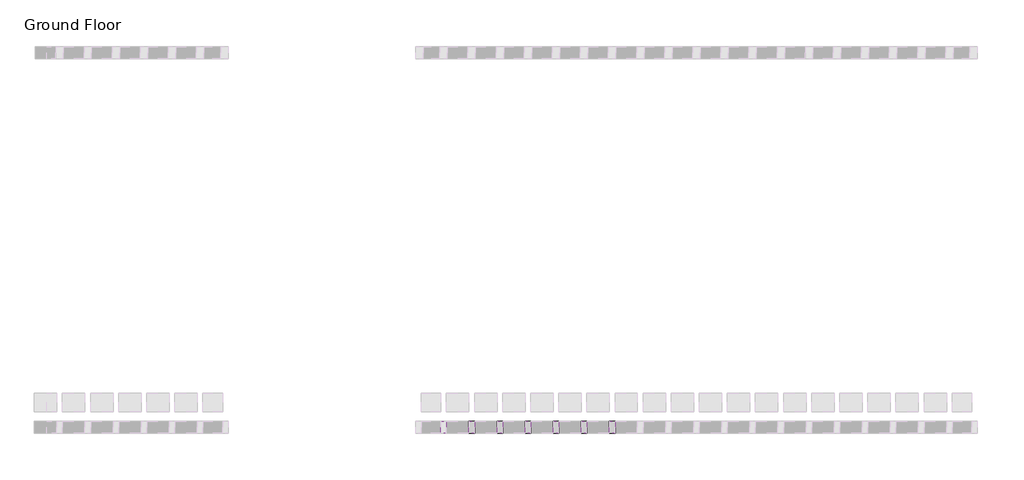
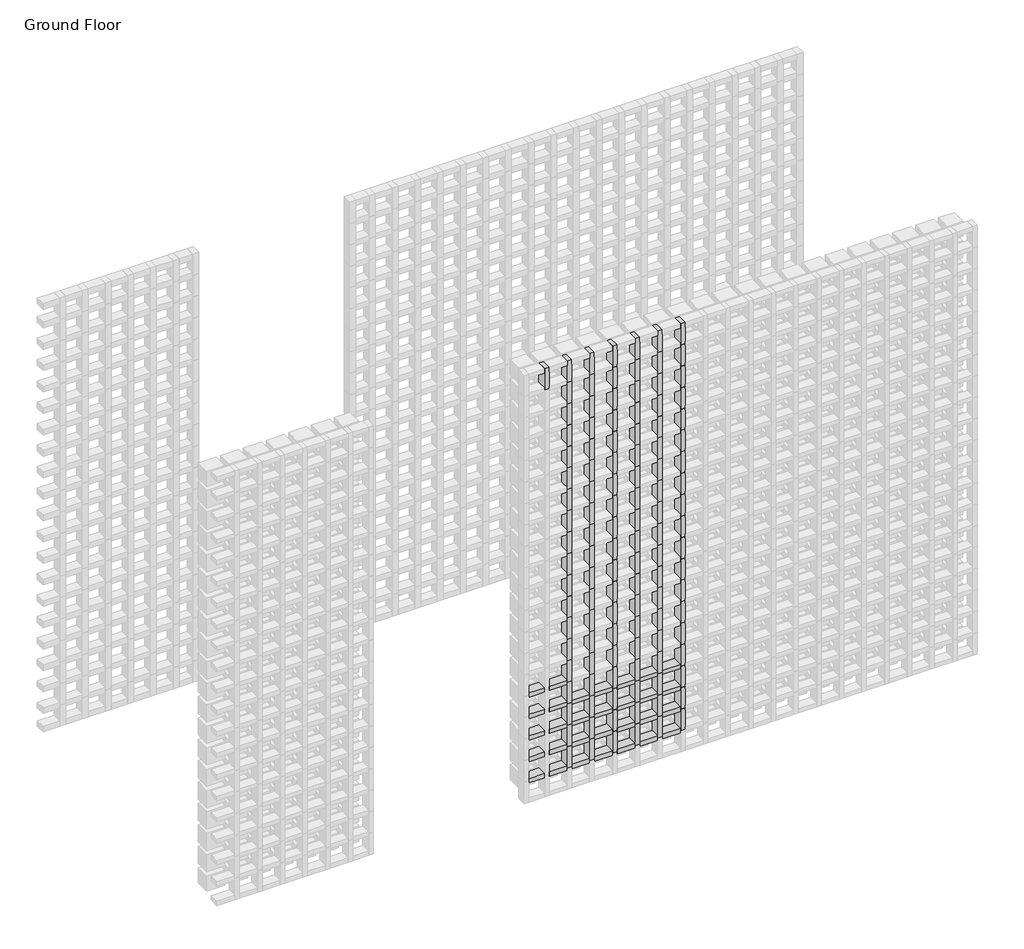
# One storey, part 75 of 350: 145 members.
"""IFC4 building model written with IfcOpenShell, lengths in millimetres."""

from ifc_helpers import new_model, si_unit, origin, place, context, project, spatial, transform, mapped, element, save
from components import rectangular_mullion_5b501421, rectangular_mullion_e9e2e2fa, rectangular_mullion_f28dea33

model = new_model("IFC4")

# Units and contexts
model_context = context("Model", 3, world=origin())
ifc_project = project(units=[si_unit("LENGTHUNIT", "METRE", prefix="MILLI")], contexts=[model_context])

# Site, building, storey
site = spatial("IfcSite", under=ifc_project)
building = spatial("IfcBuilding", under=site)
storey = spatial("IfcBuildingStorey", under=building, Name="Ground Floor", Elevation=0.0)

# Members
placement = place(None, origin())
rectangular_mullion_shape = rectangular_mullion_5b501421(model_context)
element("IfcMember", 1, ObjectType="Rectangular Mullion : Batten_Timber_Modinex_Austratus_Grid_Fascia_30x65_Ironbark", at=placement, inside=storey, context=model_context, shape_type="MappedRepresentation", body=[
    mapped(rectangular_mullion_shape, transform((14216.4361642, 38968.2978302, 150.0), x_axis=(1.0, 0.0, 0.0), y_axis=(0.0, -1.0, 0.0), z_axis=(0.0, 0.0, -1.0))),
])
element("IfcMember", 2, ObjectType="Rectangular Mullion : Batten_Timber_Modinex_Austratus_Grid_Fascia_30x65_Ironbark", at=placement, inside=storey, context=model_context, shape_type="MappedRepresentation", body=[
    mapped(rectangular_mullion_shape, transform((14216.4361642, 38968.2978302, 300.0), x_axis=(1.0, 0.0, 0.0), y_axis=(0.0, -1.0, 0.0), z_axis=(0.0, 0.0, -1.0))),
])
element("IfcMember", 3, ObjectType="Rectangular Mullion : Batten_Timber_Modinex_Austratus_Grid_Fascia_30x65_Ironbark", at=placement, inside=storey, context=model_context, shape_type="MappedRepresentation", body=[
    mapped(rectangular_mullion_shape, transform((14216.4361642, 38968.2978302, 450.0), x_axis=(1.0, 0.0, 0.0), y_axis=(0.0, -1.0, 0.0), z_axis=(0.0, 0.0, -1.0))),
])
element("IfcMember", 4, ObjectType="Rectangular Mullion : Batten_Timber_Modinex_Austratus_Grid_Fascia_30x65_Ironbark", at=placement, inside=storey, context=model_context, shape_type="MappedRepresentation", body=[
    mapped(rectangular_mullion_shape, transform((14216.4361642, 38968.2978302, 600.0), x_axis=(1.0, 0.0, 0.0), y_axis=(0.0, -1.0, 0.0), z_axis=(0.0, 0.0, -1.0))),
])
element("IfcMember", 5, ObjectType="Rectangular Mullion : Batten_Timber_Modinex_Austratus_Grid_Fascia_30x65_Ironbark", at=placement, inside=storey, context=model_context, shape_type="MappedRepresentation", body=[
    mapped(rectangular_mullion_shape, transform((14216.4361642, 38968.2978302, 750.0), x_axis=(1.0, 0.0, 0.0), y_axis=(0.0, -1.0, 0.0), z_axis=(0.0, 0.0, -1.0))),
])
element("IfcMember", 6, ObjectType="Rectangular Mullion : Batten_Timber_Modinex_Austratus_Grid_Fascia_30x65_Ironbark", at=placement, inside=storey, context=model_context, shape_type="MappedRepresentation", body=[
    mapped(rectangular_mullion_shape, transform((14216.4361642, 38968.2978302, 900.0), x_axis=(1.0, 0.0, 0.0), y_axis=(0.0, -1.0, 0.0), z_axis=(0.0, 0.0, -1.0))),
])
element("IfcMember", 7, ObjectType="Rectangular Mullion : Batten_Timber_Modinex_Austratus_Grid_Fascia_30x65_Ironbark", at=placement, inside=storey, context=model_context, shape_type="MappedRepresentation", body=[
    mapped(rectangular_mullion_shape, transform((14216.4361642, 38968.2978302, 1050.0), x_axis=(1.0, 0.0, 0.0), y_axis=(0.0, -1.0, 0.0), z_axis=(0.0, 0.0, -1.0))),
])
element("IfcMember", 8, ObjectType="Rectangular Mullion : Batten_Timber_Modinex_Austratus_Grid_Fascia_30x65_Ironbark", at=placement, inside=storey, context=model_context, shape_type="MappedRepresentation", body=[
    mapped(rectangular_mullion_shape, transform((14216.4361642, 38968.2978302, 1200.0), x_axis=(1.0, 0.0, 0.0), y_axis=(0.0, -1.0, 0.0), z_axis=(0.0, 0.0, -1.0))),
])
element("IfcMember", 9, ObjectType="Rectangular Mullion : Batten_Timber_Modinex_Austratus_Grid_Fascia_30x65_Ironbark", at=placement, inside=storey, context=model_context, shape_type="MappedRepresentation", body=[
    mapped(rectangular_mullion_shape, transform((14216.4361642, 38968.2978302, 1350.0), x_axis=(1.0, 0.0, 0.0), y_axis=(0.0, -1.0, 0.0), z_axis=(0.0, 0.0, -1.0))),
])
element("IfcMember", 10, ObjectType="Rectangular Mullion : Batten_Timber_Modinex_Austratus_Grid_Fascia_30x65_Ironbark", at=placement, inside=storey, context=model_context, shape_type="MappedRepresentation", body=[
    mapped(rectangular_mullion_shape, transform((14216.4361642, 38968.2978302, 1500.0), x_axis=(1.0, 0.0, 0.0), y_axis=(0.0, -1.0, 0.0), z_axis=(0.0, 0.0, -1.0))),
])
element("IfcMember", 11, ObjectType="Rectangular Mullion : Batten_Timber_Modinex_Austratus_Grid_Fascia_30x65_Ironbark", at=placement, inside=storey, context=model_context, shape_type="MappedRepresentation", body=[
    mapped(rectangular_mullion_shape, transform((14216.4361642, 38968.2978302, 1650.0), x_axis=(1.0, 0.0, 0.0), y_axis=(0.0, -1.0, 0.0), z_axis=(0.0, 0.0, -1.0))),
])
element("IfcMember", 12, ObjectType="Rectangular Mullion : Batten_Timber_Modinex_Austratus_Grid_Fascia_30x65_Ironbark", at=placement, inside=storey, context=model_context, shape_type="MappedRepresentation", body=[
    mapped(rectangular_mullion_shape, transform((14216.4361642, 38968.2978302, 1800.0), x_axis=(1.0, 0.0, 0.0), y_axis=(0.0, -1.0, 0.0), z_axis=(0.0, 0.0, -1.0))),
])
element("IfcMember", 13, ObjectType="Rectangular Mullion : Batten_Timber_Modinex_Austratus_Grid_Fascia_30x65_Ironbark", at=placement, inside=storey, context=model_context, shape_type="MappedRepresentation", body=[
    mapped(rectangular_mullion_shape, transform((14216.4361642, 38968.2978302, 1950.0), x_axis=(1.0, 0.0, 0.0), y_axis=(0.0, -1.0, 0.0), z_axis=(0.0, 0.0, -1.0))),
])
element("IfcMember", 14, ObjectType="Rectangular Mullion : Batten_Timber_Modinex_Austratus_Grid_Fascia_30x65_Ironbark", at=placement, inside=storey, context=model_context, shape_type="MappedRepresentation", body=[
    mapped(rectangular_mullion_shape, transform((14216.4361642, 38968.2978302, 2100.0), x_axis=(1.0, 0.0, 0.0), y_axis=(0.0, -1.0, 0.0), z_axis=(0.0, 0.0, -1.0))),
])
element("IfcMember", 15, ObjectType="Rectangular Mullion : Batten_Timber_Modinex_Austratus_Grid_Fascia_30x65_Ironbark", at=placement, inside=storey, context=model_context, shape_type="MappedRepresentation", body=[
    mapped(rectangular_mullion_shape, transform((14216.4361642, 38968.2978302, 2250.0), x_axis=(1.0, 0.0, 0.0), y_axis=(0.0, -1.0, 0.0), z_axis=(0.0, 0.0, -1.0))),
])
element("IfcMember", 16, ObjectType="Rectangular Mullion : Batten_Timber_Modinex_Austratus_Grid_Fascia_30x65_Ironbark", at=placement, inside=storey, context=model_context, shape_type="MappedRepresentation", body=[
    mapped(rectangular_mullion_shape, transform((14216.4361642, 38968.2978302, 2400.0), x_axis=(1.0, 0.0, 0.0), y_axis=(0.0, -1.0, 0.0), z_axis=(0.0, 0.0, -1.0))),
])
element("IfcMember", 17, ObjectType="Rectangular Mullion : Batten_Timber_Modinex_Austratus_Grid_Fascia_30x65_Ironbark", at=placement, inside=storey, context=model_context, shape_type="MappedRepresentation", body=[
    mapped(rectangular_mullion_shape, transform((14216.4361642, 38968.2978302, 2550.0), x_axis=(1.0, 0.0, 0.0), y_axis=(0.0, -1.0, 0.0), z_axis=(0.0, 0.0, -1.0))),
])
element("IfcMember", 18, ObjectType="Rectangular Mullion : Batten_Timber_Modinex_Austratus_Grid_Fascia_30x65_Ironbark", at=placement, inside=storey, context=model_context, shape_type="MappedRepresentation", body=[
    mapped(rectangular_mullion_shape, transform((14216.4361642, 38968.2978302, 2700.0), x_axis=(1.0, 0.0, 0.0), y_axis=(0.0, -1.0, 0.0), z_axis=(0.0, 0.0, -1.0))),
])
element("IfcMember", 19, ObjectType="Rectangular Mullion : Batten_Timber_Modinex_Austratus_Grid_Fascia_30x65_Ironbark", at=placement, inside=storey, context=model_context, shape_type="MappedRepresentation", body=[
    mapped(rectangular_mullion_shape, transform((14366.4361642, 38968.2978302, 150.0), x_axis=(1.0, 0.0, 0.0), y_axis=(0.0, -1.0, 0.0), z_axis=(0.0, 0.0, -1.0))),
])
element("IfcMember", 20, ObjectType="Rectangular Mullion : Batten_Timber_Modinex_Austratus_Grid_Fascia_30x65_Ironbark", at=placement, inside=storey, context=model_context, shape_type="MappedRepresentation", body=[
    mapped(rectangular_mullion_shape, transform((14366.4361642, 38968.2978302, 300.0), x_axis=(1.0, 0.0, 0.0), y_axis=(0.0, -1.0, 0.0), z_axis=(0.0, 0.0, -1.0))),
])
element("IfcMember", 21, ObjectType="Rectangular Mullion : Batten_Timber_Modinex_Austratus_Grid_Fascia_30x65_Ironbark", at=placement, inside=storey, context=model_context, shape_type="MappedRepresentation", body=[
    mapped(rectangular_mullion_shape, transform((14366.4361642, 38968.2978302, 450.0), x_axis=(1.0, 0.0, 0.0), y_axis=(0.0, -1.0, 0.0), z_axis=(0.0, 0.0, -1.0))),
])
element("IfcMember", 22, ObjectType="Rectangular Mullion : Batten_Timber_Modinex_Austratus_Grid_Fascia_30x65_Ironbark", at=placement, inside=storey, context=model_context, shape_type="MappedRepresentation", body=[
    mapped(rectangular_mullion_shape, transform((14366.4361642, 38968.2978302, 600.0), x_axis=(1.0, 0.0, 0.0), y_axis=(0.0, -1.0, 0.0), z_axis=(0.0, 0.0, -1.0))),
])
element("IfcMember", 23, ObjectType="Rectangular Mullion : Batten_Timber_Modinex_Austratus_Grid_Fascia_30x65_Ironbark", at=placement, inside=storey, context=model_context, shape_type="MappedRepresentation", body=[
    mapped(rectangular_mullion_shape, transform((14366.4361642, 38968.2978302, 750.0), x_axis=(1.0, 0.0, 0.0), y_axis=(0.0, -1.0, 0.0), z_axis=(0.0, 0.0, -1.0))),
])
element("IfcMember", 24, ObjectType="Rectangular Mullion : Batten_Timber_Modinex_Austratus_Grid_Fascia_30x65_Ironbark", at=placement, inside=storey, context=model_context, shape_type="MappedRepresentation", body=[
    mapped(rectangular_mullion_shape, transform((14366.4361642, 38968.2978302, 900.0), x_axis=(1.0, 0.0, 0.0), y_axis=(0.0, -1.0, 0.0), z_axis=(0.0, 0.0, -1.0))),
])
element("IfcMember", 25, ObjectType="Rectangular Mullion : Batten_Timber_Modinex_Austratus_Grid_Fascia_30x65_Ironbark", at=placement, inside=storey, context=model_context, shape_type="MappedRepresentation", body=[
    mapped(rectangular_mullion_shape, transform((14366.4361642, 38968.2978302, 1050.0), x_axis=(1.0, 0.0, 0.0), y_axis=(0.0, -1.0, 0.0), z_axis=(0.0, 0.0, -1.0))),
])
element("IfcMember", 26, ObjectType="Rectangular Mullion : Batten_Timber_Modinex_Austratus_Grid_Fascia_30x65_Ironbark", at=placement, inside=storey, context=model_context, shape_type="MappedRepresentation", body=[
    mapped(rectangular_mullion_shape, transform((14366.4361642, 38968.2978302, 1200.0), x_axis=(1.0, 0.0, 0.0), y_axis=(0.0, -1.0, 0.0), z_axis=(0.0, 0.0, -1.0))),
])
element("IfcMember", 27, ObjectType="Rectangular Mullion : Batten_Timber_Modinex_Austratus_Grid_Fascia_30x65_Ironbark", at=placement, inside=storey, context=model_context, shape_type="MappedRepresentation", body=[
    mapped(rectangular_mullion_shape, transform((14366.4361642, 38968.2978302, 1350.0), x_axis=(1.0, 0.0, 0.0), y_axis=(0.0, -1.0, 0.0), z_axis=(0.0, 0.0, -1.0))),
])
element("IfcMember", 28, ObjectType="Rectangular Mullion : Batten_Timber_Modinex_Austratus_Grid_Fascia_30x65_Ironbark", at=placement, inside=storey, context=model_context, shape_type="MappedRepresentation", body=[
    mapped(rectangular_mullion_shape, transform((14366.4361642, 38968.2978302, 1500.0), x_axis=(1.0, 0.0, 0.0), y_axis=(0.0, -1.0, 0.0), z_axis=(0.0, 0.0, -1.0))),
])
element("IfcMember", 29, ObjectType="Rectangular Mullion : Batten_Timber_Modinex_Austratus_Grid_Fascia_30x65_Ironbark", at=placement, inside=storey, context=model_context, shape_type="MappedRepresentation", body=[
    mapped(rectangular_mullion_shape, transform((14366.4361642, 38968.2978302, 1650.0), x_axis=(1.0, 0.0, 0.0), y_axis=(0.0, -1.0, 0.0), z_axis=(0.0, 0.0, -1.0))),
])
element("IfcMember", 30, ObjectType="Rectangular Mullion : Batten_Timber_Modinex_Austratus_Grid_Fascia_30x65_Ironbark", at=placement, inside=storey, context=model_context, shape_type="MappedRepresentation", body=[
    mapped(rectangular_mullion_shape, transform((14366.4361642, 38968.2978302, 1800.0), x_axis=(1.0, 0.0, 0.0), y_axis=(0.0, -1.0, 0.0), z_axis=(0.0, 0.0, -1.0))),
])
element("IfcMember", 31, ObjectType="Rectangular Mullion : Batten_Timber_Modinex_Austratus_Grid_Fascia_30x65_Ironbark", at=placement, inside=storey, context=model_context, shape_type="MappedRepresentation", body=[
    mapped(rectangular_mullion_shape, transform((14366.4361642, 38968.2978302, 1950.0), x_axis=(1.0, 0.0, 0.0), y_axis=(0.0, -1.0, 0.0), z_axis=(0.0, 0.0, -1.0))),
])
element("IfcMember", 32, ObjectType="Rectangular Mullion : Batten_Timber_Modinex_Austratus_Grid_Fascia_30x65_Ironbark", at=placement, inside=storey, context=model_context, shape_type="MappedRepresentation", body=[
    mapped(rectangular_mullion_shape, transform((14366.4361642, 38968.2978302, 2100.0), x_axis=(1.0, 0.0, 0.0), y_axis=(0.0, -1.0, 0.0), z_axis=(0.0, 0.0, -1.0))),
])
element("IfcMember", 33, ObjectType="Rectangular Mullion : Batten_Timber_Modinex_Austratus_Grid_Fascia_30x65_Ironbark", at=placement, inside=storey, context=model_context, shape_type="MappedRepresentation", body=[
    mapped(rectangular_mullion_shape, transform((14366.4361642, 38968.2978302, 2250.0), x_axis=(1.0, 0.0, 0.0), y_axis=(0.0, -1.0, 0.0), z_axis=(0.0, 0.0, -1.0))),
])
element("IfcMember", 34, ObjectType="Rectangular Mullion : Batten_Timber_Modinex_Austratus_Grid_Fascia_30x65_Ironbark", at=placement, inside=storey, context=model_context, shape_type="MappedRepresentation", body=[
    mapped(rectangular_mullion_shape, transform((14366.4361642, 38968.2978302, 2400.0), x_axis=(1.0, 0.0, 0.0), y_axis=(0.0, -1.0, 0.0), z_axis=(0.0, 0.0, -1.0))),
])
element("IfcMember", 35, ObjectType="Rectangular Mullion : Batten_Timber_Modinex_Austratus_Grid_Fascia_30x65_Ironbark", at=placement, inside=storey, context=model_context, shape_type="MappedRepresentation", body=[
    mapped(rectangular_mullion_shape, transform((14366.4361642, 38968.2978302, 2550.0), x_axis=(1.0, 0.0, 0.0), y_axis=(0.0, -1.0, 0.0), z_axis=(0.0, 0.0, -1.0))),
])
element("IfcMember", 36, ObjectType="Rectangular Mullion : Batten_Timber_Modinex_Austratus_Grid_Fascia_30x65_Ironbark", at=placement, inside=storey, context=model_context, shape_type="MappedRepresentation", body=[
    mapped(rectangular_mullion_shape, transform((14366.4361642, 38968.2978302, 2700.0), x_axis=(1.0, 0.0, 0.0), y_axis=(0.0, -1.0, 0.0), z_axis=(0.0, 0.0, -1.0))),
])
element("IfcMember", 37, ObjectType="Rectangular Mullion : Batten_Timber_Modinex_Austratus_Grid_Fascia_30x65_Ironbark", at=placement, inside=storey, context=model_context, shape_type="MappedRepresentation", body=[
    mapped(rectangular_mullion_shape, transform((14516.4361642, 38968.2978302, 150.0), x_axis=(1.0, 0.0, 0.0), y_axis=(0.0, -1.0, 0.0), z_axis=(0.0, 0.0, -1.0))),
])
element("IfcMember", 38, ObjectType="Rectangular Mullion : Batten_Timber_Modinex_Austratus_Grid_Fascia_30x65_Ironbark", at=placement, inside=storey, context=model_context, shape_type="MappedRepresentation", body=[
    mapped(rectangular_mullion_shape, transform((14516.4361642, 38968.2978302, 300.0), x_axis=(1.0, 0.0, 0.0), y_axis=(0.0, -1.0, 0.0), z_axis=(0.0, 0.0, -1.0))),
])
element("IfcMember", 39, ObjectType="Rectangular Mullion : Batten_Timber_Modinex_Austratus_Grid_Fascia_30x65_Ironbark", at=placement, inside=storey, context=model_context, shape_type="MappedRepresentation", body=[
    mapped(rectangular_mullion_shape, transform((14516.4361642, 38968.2978302, 450.0), x_axis=(1.0, 0.0, 0.0), y_axis=(0.0, -1.0, 0.0), z_axis=(0.0, 0.0, -1.0))),
])
element("IfcMember", 40, ObjectType="Rectangular Mullion : Batten_Timber_Modinex_Austratus_Grid_Fascia_30x65_Ironbark", at=placement, inside=storey, context=model_context, shape_type="MappedRepresentation", body=[
    mapped(rectangular_mullion_shape, transform((14516.4361642, 38968.2978302, 600.0), x_axis=(1.0, 0.0, 0.0), y_axis=(0.0, -1.0, 0.0), z_axis=(0.0, 0.0, -1.0))),
])
element("IfcMember", 41, ObjectType="Rectangular Mullion : Batten_Timber_Modinex_Austratus_Grid_Fascia_30x65_Ironbark", at=placement, inside=storey, context=model_context, shape_type="MappedRepresentation", body=[
    mapped(rectangular_mullion_shape, transform((14516.4361642, 38968.2978302, 750.0), x_axis=(1.0, 0.0, 0.0), y_axis=(0.0, -1.0, 0.0), z_axis=(0.0, 0.0, -1.0))),
])
element("IfcMember", 42, ObjectType="Rectangular Mullion : Batten_Timber_Modinex_Austratus_Grid_Fascia_30x65_Ironbark", at=placement, inside=storey, context=model_context, shape_type="MappedRepresentation", body=[
    mapped(rectangular_mullion_shape, transform((14516.4361642, 38968.2978302, 900.0), x_axis=(1.0, 0.0, 0.0), y_axis=(0.0, -1.0, 0.0), z_axis=(0.0, 0.0, -1.0))),
])
element("IfcMember", 43, ObjectType="Rectangular Mullion : Batten_Timber_Modinex_Austratus_Grid_Fascia_30x65_Ironbark", at=placement, inside=storey, context=model_context, shape_type="MappedRepresentation", body=[
    mapped(rectangular_mullion_shape, transform((14516.4361642, 38968.2978302, 1050.0), x_axis=(1.0, 0.0, 0.0), y_axis=(0.0, -1.0, 0.0), z_axis=(0.0, 0.0, -1.0))),
])
element("IfcMember", 44, ObjectType="Rectangular Mullion : Batten_Timber_Modinex_Austratus_Grid_Fascia_30x65_Ironbark", at=placement, inside=storey, context=model_context, shape_type="MappedRepresentation", body=[
    mapped(rectangular_mullion_shape, transform((14516.4361642, 38968.2978302, 1200.0), x_axis=(1.0, 0.0, 0.0), y_axis=(0.0, -1.0, 0.0), z_axis=(0.0, 0.0, -1.0))),
])
element("IfcMember", 45, ObjectType="Rectangular Mullion : Batten_Timber_Modinex_Austratus_Grid_Fascia_30x65_Ironbark", at=placement, inside=storey, context=model_context, shape_type="MappedRepresentation", body=[
    mapped(rectangular_mullion_shape, transform((14516.4361642, 38968.2978302, 1350.0), x_axis=(1.0, 0.0, 0.0), y_axis=(0.0, -1.0, 0.0), z_axis=(0.0, 0.0, -1.0))),
])
element("IfcMember", 46, ObjectType="Rectangular Mullion : Batten_Timber_Modinex_Austratus_Grid_Fascia_30x65_Ironbark", at=placement, inside=storey, context=model_context, shape_type="MappedRepresentation", body=[
    mapped(rectangular_mullion_shape, transform((14516.4361642, 38968.2978302, 1500.0), x_axis=(1.0, 0.0, 0.0), y_axis=(0.0, -1.0, 0.0), z_axis=(0.0, 0.0, -1.0))),
])
element("IfcMember", 47, ObjectType="Rectangular Mullion : Batten_Timber_Modinex_Austratus_Grid_Fascia_30x65_Ironbark", at=placement, inside=storey, context=model_context, shape_type="MappedRepresentation", body=[
    mapped(rectangular_mullion_shape, transform((14516.4361642, 38968.2978302, 1650.0), x_axis=(1.0, 0.0, 0.0), y_axis=(0.0, -1.0, 0.0), z_axis=(0.0, 0.0, -1.0))),
])
element("IfcMember", 48, ObjectType="Rectangular Mullion : Batten_Timber_Modinex_Austratus_Grid_Fascia_30x65_Ironbark", at=placement, inside=storey, context=model_context, shape_type="MappedRepresentation", body=[
    mapped(rectangular_mullion_shape, transform((14516.4361642, 38968.2978302, 1800.0), x_axis=(1.0, 0.0, 0.0), y_axis=(0.0, -1.0, 0.0), z_axis=(0.0, 0.0, -1.0))),
])
element("IfcMember", 49, ObjectType="Rectangular Mullion : Batten_Timber_Modinex_Austratus_Grid_Fascia_30x65_Ironbark", at=placement, inside=storey, context=model_context, shape_type="MappedRepresentation", body=[
    mapped(rectangular_mullion_shape, transform((14516.4361642, 38968.2978302, 1950.0), x_axis=(1.0, 0.0, 0.0), y_axis=(0.0, -1.0, 0.0), z_axis=(0.0, 0.0, -1.0))),
])
element("IfcMember", 50, ObjectType="Rectangular Mullion : Batten_Timber_Modinex_Austratus_Grid_Fascia_30x65_Ironbark", at=placement, inside=storey, context=model_context, shape_type="MappedRepresentation", body=[
    mapped(rectangular_mullion_shape, transform((14516.4361642, 38968.2978302, 2100.0), x_axis=(1.0, 0.0, 0.0), y_axis=(0.0, -1.0, 0.0), z_axis=(0.0, 0.0, -1.0))),
])
element("IfcMember", 51, ObjectType="Rectangular Mullion : Batten_Timber_Modinex_Austratus_Grid_Fascia_30x65_Ironbark", at=placement, inside=storey, context=model_context, shape_type="MappedRepresentation", body=[
    mapped(rectangular_mullion_shape, transform((14516.4361642, 38968.2978302, 2250.0), x_axis=(1.0, 0.0, 0.0), y_axis=(0.0, -1.0, 0.0), z_axis=(0.0, 0.0, -1.0))),
])
element("IfcMember", 52, ObjectType="Rectangular Mullion : Batten_Timber_Modinex_Austratus_Grid_Fascia_30x65_Ironbark", at=placement, inside=storey, context=model_context, shape_type="MappedRepresentation", body=[
    mapped(rectangular_mullion_shape, transform((14516.4361642, 38968.2978302, 2400.0), x_axis=(1.0, 0.0, 0.0), y_axis=(0.0, -1.0, 0.0), z_axis=(0.0, 0.0, -1.0))),
])
element("IfcMember", 53, ObjectType="Rectangular Mullion : Batten_Timber_Modinex_Austratus_Grid_Fascia_30x65_Ironbark", at=placement, inside=storey, context=model_context, shape_type="MappedRepresentation", body=[
    mapped(rectangular_mullion_shape, transform((14516.4361642, 38968.2978302, 2550.0), x_axis=(1.0, 0.0, 0.0), y_axis=(0.0, -1.0, 0.0), z_axis=(0.0, 0.0, -1.0))),
])
element("IfcMember", 54, ObjectType="Rectangular Mullion : Batten_Timber_Modinex_Austratus_Grid_Fascia_30x65_Ironbark", at=placement, inside=storey, context=model_context, shape_type="MappedRepresentation", body=[
    mapped(rectangular_mullion_shape, transform((14516.4361642, 38968.2978302, 2700.0), x_axis=(1.0, 0.0, 0.0), y_axis=(0.0, -1.0, 0.0), z_axis=(0.0, 0.0, -1.0))),
])
element("IfcMember", 55, ObjectType="Rectangular Mullion : Batten_Timber_Modinex_Austratus_Grid_Fascia_30x65_Ironbark", at=placement, inside=storey, context=model_context, shape_type="MappedRepresentation", body=[
    mapped(rectangular_mullion_shape, transform((14666.4361642, 38968.2978302, 150.0), x_axis=(1.0, 0.0, 0.0), y_axis=(0.0, -1.0, 0.0), z_axis=(0.0, 0.0, -1.0))),
])
element("IfcMember", 56, ObjectType="Rectangular Mullion : Batten_Timber_Modinex_Austratus_Grid_Fascia_30x65_Ironbark", at=placement, inside=storey, context=model_context, shape_type="MappedRepresentation", body=[
    mapped(rectangular_mullion_shape, transform((14666.4361642, 38968.2978302, 300.0), x_axis=(1.0, 0.0, 0.0), y_axis=(0.0, -1.0, 0.0), z_axis=(0.0, 0.0, -1.0))),
])
element("IfcMember", 57, ObjectType="Rectangular Mullion : Batten_Timber_Modinex_Austratus_Grid_Fascia_30x65_Ironbark", at=placement, inside=storey, context=model_context, shape_type="MappedRepresentation", body=[
    mapped(rectangular_mullion_shape, transform((14666.4361642, 38968.2978302, 450.0), x_axis=(1.0, 0.0, 0.0), y_axis=(0.0, -1.0, 0.0), z_axis=(0.0, 0.0, -1.0))),
])
element("IfcMember", 58, ObjectType="Rectangular Mullion : Batten_Timber_Modinex_Austratus_Grid_Fascia_30x65_Ironbark", at=placement, inside=storey, context=model_context, shape_type="MappedRepresentation", body=[
    mapped(rectangular_mullion_shape, transform((14666.4361642, 38968.2978302, 600.0), x_axis=(1.0, 0.0, 0.0), y_axis=(0.0, -1.0, 0.0), z_axis=(0.0, 0.0, -1.0))),
])
element("IfcMember", 59, ObjectType="Rectangular Mullion : Batten_Timber_Modinex_Austratus_Grid_Fascia_30x65_Ironbark", at=placement, inside=storey, context=model_context, shape_type="MappedRepresentation", body=[
    mapped(rectangular_mullion_shape, transform((14666.4361642, 38968.2978302, 750.0), x_axis=(1.0, 0.0, 0.0), y_axis=(0.0, -1.0, 0.0), z_axis=(0.0, 0.0, -1.0))),
])
element("IfcMember", 60, ObjectType="Rectangular Mullion : Batten_Timber_Modinex_Austratus_Grid_Fascia_30x65_Ironbark", at=placement, inside=storey, context=model_context, shape_type="MappedRepresentation", body=[
    mapped(rectangular_mullion_shape, transform((14666.4361642, 38968.2978302, 900.0), x_axis=(1.0, 0.0, 0.0), y_axis=(0.0, -1.0, 0.0), z_axis=(0.0, 0.0, -1.0))),
])
element("IfcMember", 61, ObjectType="Rectangular Mullion : Batten_Timber_Modinex_Austratus_Grid_Fascia_30x65_Ironbark", at=placement, inside=storey, context=model_context, shape_type="MappedRepresentation", body=[
    mapped(rectangular_mullion_shape, transform((14666.4361642, 38968.2978302, 1050.0), x_axis=(1.0, 0.0, 0.0), y_axis=(0.0, -1.0, 0.0), z_axis=(0.0, 0.0, -1.0))),
])
element("IfcMember", 62, ObjectType="Rectangular Mullion : Batten_Timber_Modinex_Austratus_Grid_Fascia_30x65_Ironbark", at=placement, inside=storey, context=model_context, shape_type="MappedRepresentation", body=[
    mapped(rectangular_mullion_shape, transform((14666.4361642, 38968.2978302, 1200.0), x_axis=(1.0, 0.0, 0.0), y_axis=(0.0, -1.0, 0.0), z_axis=(0.0, 0.0, -1.0))),
])
element("IfcMember", 63, ObjectType="Rectangular Mullion : Batten_Timber_Modinex_Austratus_Grid_Fascia_30x65_Ironbark", at=placement, inside=storey, context=model_context, shape_type="MappedRepresentation", body=[
    mapped(rectangular_mullion_shape, transform((14666.4361642, 38968.2978302, 1350.0), x_axis=(1.0, 0.0, 0.0), y_axis=(0.0, -1.0, 0.0), z_axis=(0.0, 0.0, -1.0))),
])
element("IfcMember", 64, ObjectType="Rectangular Mullion : Batten_Timber_Modinex_Austratus_Grid_Fascia_30x65_Ironbark", at=placement, inside=storey, context=model_context, shape_type="MappedRepresentation", body=[
    mapped(rectangular_mullion_shape, transform((14666.4361642, 38968.2978302, 1500.0), x_axis=(1.0, 0.0, 0.0), y_axis=(0.0, -1.0, 0.0), z_axis=(0.0, 0.0, -1.0))),
])
element("IfcMember", 65, ObjectType="Rectangular Mullion : Batten_Timber_Modinex_Austratus_Grid_Fascia_30x65_Ironbark", at=placement, inside=storey, context=model_context, shape_type="MappedRepresentation", body=[
    mapped(rectangular_mullion_shape, transform((14666.4361642, 38968.2978302, 1650.0), x_axis=(1.0, 0.0, 0.0), y_axis=(0.0, -1.0, 0.0), z_axis=(0.0, 0.0, -1.0))),
])
element("IfcMember", 66, ObjectType="Rectangular Mullion : Batten_Timber_Modinex_Austratus_Grid_Fascia_30x65_Ironbark", at=placement, inside=storey, context=model_context, shape_type="MappedRepresentation", body=[
    mapped(rectangular_mullion_shape, transform((14666.4361642, 38968.2978302, 1800.0), x_axis=(1.0, 0.0, 0.0), y_axis=(0.0, -1.0, 0.0), z_axis=(0.0, 0.0, -1.0))),
])
element("IfcMember", 67, ObjectType="Rectangular Mullion : Batten_Timber_Modinex_Austratus_Grid_Fascia_30x65_Ironbark", at=placement, inside=storey, context=model_context, shape_type="MappedRepresentation", body=[
    mapped(rectangular_mullion_shape, transform((14666.4361642, 38968.2978302, 1950.0), x_axis=(1.0, 0.0, 0.0), y_axis=(0.0, -1.0, 0.0), z_axis=(0.0, 0.0, -1.0))),
])
element("IfcMember", 68, ObjectType="Rectangular Mullion : Batten_Timber_Modinex_Austratus_Grid_Fascia_30x65_Ironbark", at=placement, inside=storey, context=model_context, shape_type="MappedRepresentation", body=[
    mapped(rectangular_mullion_shape, transform((14666.4361642, 38968.2978302, 2100.0), x_axis=(1.0, 0.0, 0.0), y_axis=(0.0, -1.0, 0.0), z_axis=(0.0, 0.0, -1.0))),
])
element("IfcMember", 69, ObjectType="Rectangular Mullion : Batten_Timber_Modinex_Austratus_Grid_Fascia_30x65_Ironbark", at=placement, inside=storey, context=model_context, shape_type="MappedRepresentation", body=[
    mapped(rectangular_mullion_shape, transform((14666.4361642, 38968.2978302, 2250.0), x_axis=(1.0, 0.0, 0.0), y_axis=(0.0, -1.0, 0.0), z_axis=(0.0, 0.0, -1.0))),
])
element("IfcMember", 70, ObjectType="Rectangular Mullion : Batten_Timber_Modinex_Austratus_Grid_Fascia_30x65_Ironbark", at=placement, inside=storey, context=model_context, shape_type="MappedRepresentation", body=[
    mapped(rectangular_mullion_shape, transform((14666.4361642, 38968.2978302, 2400.0), x_axis=(1.0, 0.0, 0.0), y_axis=(0.0, -1.0, 0.0), z_axis=(0.0, 0.0, -1.0))),
])
element("IfcMember", 71, ObjectType="Rectangular Mullion : Batten_Timber_Modinex_Austratus_Grid_Fascia_30x65_Ironbark", at=placement, inside=storey, context=model_context, shape_type="MappedRepresentation", body=[
    mapped(rectangular_mullion_shape, transform((14666.4361642, 38968.2978302, 2550.0), x_axis=(1.0, 0.0, 0.0), y_axis=(0.0, -1.0, 0.0), z_axis=(0.0, 0.0, -1.0))),
])
element("IfcMember", 72, ObjectType="Rectangular Mullion : Batten_Timber_Modinex_Austratus_Grid_Fascia_30x65_Ironbark", at=placement, inside=storey, context=model_context, shape_type="MappedRepresentation", body=[
    mapped(rectangular_mullion_shape, transform((14666.4361642, 38968.2978302, 2700.0), x_axis=(1.0, 0.0, 0.0), y_axis=(0.0, -1.0, 0.0), z_axis=(0.0, 0.0, -1.0))),
])
element("IfcMember", 73, ObjectType="Rectangular Mullion : Batten_Timber_Modinex_Austratus_Grid_Fascia_30x65_Ironbark", at=placement, inside=storey, context=model_context, shape_type="MappedRepresentation", body=[
    mapped(rectangular_mullion_shape, transform((14816.4361642, 38968.2978302, 150.0), x_axis=(1.0, 0.0, 0.0), y_axis=(0.0, -1.0, 0.0), z_axis=(0.0, 0.0, -1.0))),
])
element("IfcMember", 74, ObjectType="Rectangular Mullion : Batten_Timber_Modinex_Austratus_Grid_Fascia_30x65_Ironbark", at=placement, inside=storey, context=model_context, shape_type="MappedRepresentation", body=[
    mapped(rectangular_mullion_shape, transform((14816.4361642, 38968.2978302, 300.0), x_axis=(1.0, 0.0, 0.0), y_axis=(0.0, -1.0, 0.0), z_axis=(0.0, 0.0, -1.0))),
])
element("IfcMember", 75, ObjectType="Rectangular Mullion : Batten_Timber_Modinex_Austratus_Grid_Fascia_30x65_Ironbark", at=placement, inside=storey, context=model_context, shape_type="MappedRepresentation", body=[
    mapped(rectangular_mullion_shape, transform((14816.4361642, 38968.2978302, 450.0), x_axis=(1.0, 0.0, 0.0), y_axis=(0.0, -1.0, 0.0), z_axis=(0.0, 0.0, -1.0))),
])
element("IfcMember", 76, ObjectType="Rectangular Mullion : Batten_Timber_Modinex_Austratus_Grid_Fascia_30x65_Ironbark", at=placement, inside=storey, context=model_context, shape_type="MappedRepresentation", body=[
    mapped(rectangular_mullion_shape, transform((14816.4361642, 38968.2978302, 600.0), x_axis=(1.0, 0.0, 0.0), y_axis=(0.0, -1.0, 0.0), z_axis=(0.0, 0.0, -1.0))),
])
element("IfcMember", 77, ObjectType="Rectangular Mullion : Batten_Timber_Modinex_Austratus_Grid_Fascia_30x65_Ironbark", at=placement, inside=storey, context=model_context, shape_type="MappedRepresentation", body=[
    mapped(rectangular_mullion_shape, transform((14816.4361642, 38968.2978302, 750.0), x_axis=(1.0, 0.0, 0.0), y_axis=(0.0, -1.0, 0.0), z_axis=(0.0, 0.0, -1.0))),
])
element("IfcMember", 78, ObjectType="Rectangular Mullion : Batten_Timber_Modinex_Austratus_Grid_Fascia_30x65_Ironbark", at=placement, inside=storey, context=model_context, shape_type="MappedRepresentation", body=[
    mapped(rectangular_mullion_shape, transform((14816.4361642, 38968.2978302, 900.0), x_axis=(1.0, 0.0, 0.0), y_axis=(0.0, -1.0, 0.0), z_axis=(0.0, 0.0, -1.0))),
])
element("IfcMember", 79, ObjectType="Rectangular Mullion : Batten_Timber_Modinex_Austratus_Grid_Fascia_30x65_Ironbark", at=placement, inside=storey, context=model_context, shape_type="MappedRepresentation", body=[
    mapped(rectangular_mullion_shape, transform((14816.4361642, 38968.2978302, 1050.0), x_axis=(1.0, 0.0, 0.0), y_axis=(0.0, -1.0, 0.0), z_axis=(0.0, 0.0, -1.0))),
])
element("IfcMember", 80, ObjectType="Rectangular Mullion : Batten_Timber_Modinex_Austratus_Grid_Fascia_30x65_Ironbark", at=placement, inside=storey, context=model_context, shape_type="MappedRepresentation", body=[
    mapped(rectangular_mullion_shape, transform((14816.4361642, 38968.2978302, 1200.0), x_axis=(1.0, 0.0, 0.0), y_axis=(0.0, -1.0, 0.0), z_axis=(0.0, 0.0, -1.0))),
])
element("IfcMember", 81, ObjectType="Rectangular Mullion : Batten_Timber_Modinex_Austratus_Grid_Fascia_30x65_Ironbark", at=placement, inside=storey, context=model_context, shape_type="MappedRepresentation", body=[
    mapped(rectangular_mullion_shape, transform((14816.4361642, 38968.2978302, 1350.0), x_axis=(1.0, 0.0, 0.0), y_axis=(0.0, -1.0, 0.0), z_axis=(0.0, 0.0, -1.0))),
])
element("IfcMember", 82, ObjectType="Rectangular Mullion : Batten_Timber_Modinex_Austratus_Grid_Fascia_30x65_Ironbark", at=placement, inside=storey, context=model_context, shape_type="MappedRepresentation", body=[
    mapped(rectangular_mullion_shape, transform((14816.4361642, 38968.2978302, 1500.0), x_axis=(1.0, 0.0, 0.0), y_axis=(0.0, -1.0, 0.0), z_axis=(0.0, 0.0, -1.0))),
])
element("IfcMember", 83, ObjectType="Rectangular Mullion : Batten_Timber_Modinex_Austratus_Grid_Fascia_30x65_Ironbark", at=placement, inside=storey, context=model_context, shape_type="MappedRepresentation", body=[
    mapped(rectangular_mullion_shape, transform((14816.4361642, 38968.2978302, 1650.0), x_axis=(1.0, 0.0, 0.0), y_axis=(0.0, -1.0, 0.0), z_axis=(0.0, 0.0, -1.0))),
])
element("IfcMember", 84, ObjectType="Rectangular Mullion : Batten_Timber_Modinex_Austratus_Grid_Fascia_30x65_Ironbark", at=placement, inside=storey, context=model_context, shape_type="MappedRepresentation", body=[
    mapped(rectangular_mullion_shape, transform((14816.4361642, 38968.2978302, 1800.0), x_axis=(1.0, 0.0, 0.0), y_axis=(0.0, -1.0, 0.0), z_axis=(0.0, 0.0, -1.0))),
])
element("IfcMember", 85, ObjectType="Rectangular Mullion : Batten_Timber_Modinex_Austratus_Grid_Fascia_30x65_Ironbark", at=placement, inside=storey, context=model_context, shape_type="MappedRepresentation", body=[
    mapped(rectangular_mullion_shape, transform((14816.4361642, 38968.2978302, 1950.0), x_axis=(1.0, 0.0, 0.0), y_axis=(0.0, -1.0, 0.0), z_axis=(0.0, 0.0, -1.0))),
])
element("IfcMember", 86, ObjectType="Rectangular Mullion : Batten_Timber_Modinex_Austratus_Grid_Fascia_30x65_Ironbark", at=placement, inside=storey, context=model_context, shape_type="MappedRepresentation", body=[
    mapped(rectangular_mullion_shape, transform((14816.4361642, 38968.2978302, 2100.0), x_axis=(1.0, 0.0, 0.0), y_axis=(0.0, -1.0, 0.0), z_axis=(0.0, 0.0, -1.0))),
])
element("IfcMember", 87, ObjectType="Rectangular Mullion : Batten_Timber_Modinex_Austratus_Grid_Fascia_30x65_Ironbark", at=placement, inside=storey, context=model_context, shape_type="MappedRepresentation", body=[
    mapped(rectangular_mullion_shape, transform((14816.4361642, 38968.2978302, 2250.0), x_axis=(1.0, 0.0, 0.0), y_axis=(0.0, -1.0, 0.0), z_axis=(0.0, 0.0, -1.0))),
])
element("IfcMember", 88, ObjectType="Rectangular Mullion : Batten_Timber_Modinex_Austratus_Grid_Fascia_30x65_Ironbark", at=placement, inside=storey, context=model_context, shape_type="MappedRepresentation", body=[
    mapped(rectangular_mullion_shape, transform((14816.4361642, 38968.2978302, 2400.0), x_axis=(1.0, 0.0, 0.0), y_axis=(0.0, -1.0, 0.0), z_axis=(0.0, 0.0, -1.0))),
])
element("IfcMember", 89, ObjectType="Rectangular Mullion : Batten_Timber_Modinex_Austratus_Grid_Fascia_30x65_Ironbark", at=placement, inside=storey, context=model_context, shape_type="MappedRepresentation", body=[
    mapped(rectangular_mullion_shape, transform((14816.4361642, 38968.2978302, 2550.0), x_axis=(1.0, 0.0, 0.0), y_axis=(0.0, -1.0, 0.0), z_axis=(0.0, 0.0, -1.0))),
])
element("IfcMember", 90, ObjectType="Rectangular Mullion : Batten_Timber_Modinex_Austratus_Grid_Fascia_30x65_Ironbark", at=placement, inside=storey, context=model_context, shape_type="MappedRepresentation", body=[
    mapped(rectangular_mullion_shape, transform((14816.4361642, 38968.2978302, 2700.0), x_axis=(1.0, 0.0, 0.0), y_axis=(0.0, -1.0, 0.0), z_axis=(0.0, 0.0, -1.0))),
])
element("IfcMember", 91, ObjectType="Rectangular Mullion : Batten_Timber_Modinex_Austratus_Grid_Fascia_30x65_Ironbark", at=placement, inside=storey, context=model_context, shape_type="MappedRepresentation", body=[
    mapped(rectangular_mullion_shape, transform((14966.4361642, 38968.2978302, 150.0), x_axis=(1.0, 0.0, 0.0), y_axis=(0.0, -1.0, 0.0), z_axis=(0.0, 0.0, -1.0))),
])
element("IfcMember", 92, ObjectType="Rectangular Mullion : Batten_Timber_Modinex_Austratus_Grid_Fascia_30x65_Ironbark", at=placement, inside=storey, context=model_context, shape_type="MappedRepresentation", body=[
    mapped(rectangular_mullion_shape, transform((14966.4361642, 38968.2978302, 300.0), x_axis=(1.0, 0.0, 0.0), y_axis=(0.0, -1.0, 0.0), z_axis=(0.0, 0.0, -1.0))),
])
element("IfcMember", 93, ObjectType="Rectangular Mullion : Batten_Timber_Modinex_Austratus_Grid_Fascia_30x65_Ironbark", at=placement, inside=storey, context=model_context, shape_type="MappedRepresentation", body=[
    mapped(rectangular_mullion_shape, transform((14966.4361642, 38968.2978302, 450.0), x_axis=(1.0, 0.0, 0.0), y_axis=(0.0, -1.0, 0.0), z_axis=(0.0, 0.0, -1.0))),
])
element("IfcMember", 94, ObjectType="Rectangular Mullion : Batten_Timber_Modinex_Austratus_Grid_Fascia_30x65_Ironbark", at=placement, inside=storey, context=model_context, shape_type="MappedRepresentation", body=[
    mapped(rectangular_mullion_shape, transform((14966.4361642, 38968.2978302, 600.0), x_axis=(1.0, 0.0, 0.0), y_axis=(0.0, -1.0, 0.0), z_axis=(0.0, 0.0, -1.0))),
])
element("IfcMember", 95, ObjectType="Rectangular Mullion : Batten_Timber_Modinex_Austratus_Grid_Fascia_30x65_Ironbark", at=placement, inside=storey, context=model_context, shape_type="MappedRepresentation", body=[
    mapped(rectangular_mullion_shape, transform((14966.4361642, 38968.2978302, 750.0), x_axis=(1.0, 0.0, 0.0), y_axis=(0.0, -1.0, 0.0), z_axis=(0.0, 0.0, -1.0))),
])
element("IfcMember", 96, ObjectType="Rectangular Mullion : Batten_Timber_Modinex_Austratus_Grid_Fascia_30x65_Ironbark", at=placement, inside=storey, context=model_context, shape_type="MappedRepresentation", body=[
    mapped(rectangular_mullion_shape, transform((14966.4361642, 38968.2978302, 900.0), x_axis=(1.0, 0.0, 0.0), y_axis=(0.0, -1.0, 0.0), z_axis=(0.0, 0.0, -1.0))),
])
element("IfcMember", 97, ObjectType="Rectangular Mullion : Batten_Timber_Modinex_Austratus_Grid_Fascia_30x65_Ironbark", at=placement, inside=storey, context=model_context, shape_type="MappedRepresentation", body=[
    mapped(rectangular_mullion_shape, transform((14966.4361642, 38968.2978302, 1050.0), x_axis=(1.0, 0.0, 0.0), y_axis=(0.0, -1.0, 0.0), z_axis=(0.0, 0.0, -1.0))),
])
element("IfcMember", 98, ObjectType="Rectangular Mullion : Batten_Timber_Modinex_Austratus_Grid_Fascia_30x65_Ironbark", at=placement, inside=storey, context=model_context, shape_type="MappedRepresentation", body=[
    mapped(rectangular_mullion_shape, transform((14966.4361642, 38968.2978302, 1200.0), x_axis=(1.0, 0.0, 0.0), y_axis=(0.0, -1.0, 0.0), z_axis=(0.0, 0.0, -1.0))),
])
element("IfcMember", 99, ObjectType="Rectangular Mullion : Batten_Timber_Modinex_Austratus_Grid_Fascia_30x65_Ironbark", at=placement, inside=storey, context=model_context, shape_type="MappedRepresentation", body=[
    mapped(rectangular_mullion_shape, transform((14966.4361642, 38968.2978302, 1350.0), x_axis=(1.0, 0.0, 0.0), y_axis=(0.0, -1.0, 0.0), z_axis=(0.0, 0.0, -1.0))),
])
element("IfcMember", 100, ObjectType="Rectangular Mullion : Batten_Timber_Modinex_Austratus_Grid_Fascia_30x65_Ironbark", at=placement, inside=storey, context=model_context, shape_type="MappedRepresentation", body=[
    mapped(rectangular_mullion_shape, transform((14966.4361642, 38968.2978302, 1500.0), x_axis=(1.0, 0.0, 0.0), y_axis=(0.0, -1.0, 0.0), z_axis=(0.0, 0.0, -1.0))),
])
element("IfcMember", 101, ObjectType="Rectangular Mullion : Batten_Timber_Modinex_Austratus_Grid_Fascia_30x65_Ironbark", at=placement, inside=storey, context=model_context, shape_type="MappedRepresentation", body=[
    mapped(rectangular_mullion_shape, transform((14966.4361642, 38968.2978302, 1650.0), x_axis=(1.0, 0.0, 0.0), y_axis=(0.0, -1.0, 0.0), z_axis=(0.0, 0.0, -1.0))),
])
element("IfcMember", 102, ObjectType="Rectangular Mullion : Batten_Timber_Modinex_Austratus_Grid_Fascia_30x65_Ironbark", at=placement, inside=storey, context=model_context, shape_type="MappedRepresentation", body=[
    mapped(rectangular_mullion_shape, transform((14966.4361642, 38968.2978302, 1800.0), x_axis=(1.0, 0.0, 0.0), y_axis=(0.0, -1.0, 0.0), z_axis=(0.0, 0.0, -1.0))),
])
element("IfcMember", 103, ObjectType="Rectangular Mullion : Batten_Timber_Modinex_Austratus_Grid_Fascia_30x65_Ironbark", at=placement, inside=storey, context=model_context, shape_type="MappedRepresentation", body=[
    mapped(rectangular_mullion_shape, transform((14966.4361642, 38968.2978302, 1950.0), x_axis=(1.0, 0.0, 0.0), y_axis=(0.0, -1.0, 0.0), z_axis=(0.0, 0.0, -1.0))),
])
element("IfcMember", 104, ObjectType="Rectangular Mullion : Batten_Timber_Modinex_Austratus_Grid_Fascia_30x65_Ironbark", at=placement, inside=storey, context=model_context, shape_type="MappedRepresentation", body=[
    mapped(rectangular_mullion_shape, transform((14966.4361642, 38968.2978302, 2100.0), x_axis=(1.0, 0.0, 0.0), y_axis=(0.0, -1.0, 0.0), z_axis=(0.0, 0.0, -1.0))),
])
element("IfcMember", 105, ObjectType="Rectangular Mullion : Batten_Timber_Modinex_Austratus_Grid_Fascia_30x65_Ironbark", at=placement, inside=storey, context=model_context, shape_type="MappedRepresentation", body=[
    mapped(rectangular_mullion_shape, transform((14966.4361642, 38968.2978302, 2250.0), x_axis=(1.0, 0.0, 0.0), y_axis=(0.0, -1.0, 0.0), z_axis=(0.0, 0.0, -1.0))),
])
element("IfcMember", 106, ObjectType="Rectangular Mullion : Batten_Timber_Modinex_Austratus_Grid_Fascia_30x65_Ironbark", at=placement, inside=storey, context=model_context, shape_type="MappedRepresentation", body=[
    mapped(rectangular_mullion_shape, transform((14966.4361642, 38968.2978302, 2400.0), x_axis=(1.0, 0.0, 0.0), y_axis=(0.0, -1.0, 0.0), z_axis=(0.0, 0.0, -1.0))),
])
element("IfcMember", 107, ObjectType="Rectangular Mullion : Batten_Timber_Modinex_Austratus_Grid_Fascia_30x65_Ironbark", at=placement, inside=storey, context=model_context, shape_type="MappedRepresentation", body=[
    mapped(rectangular_mullion_shape, transform((14966.4361642, 38968.2978302, 2550.0), x_axis=(1.0, 0.0, 0.0), y_axis=(0.0, -1.0, 0.0), z_axis=(0.0, 0.0, -1.0))),
])
element("IfcMember", 108, ObjectType="Rectangular Mullion : Batten_Timber_Modinex_Austratus_Grid_Fascia_30x65_Ironbark", at=placement, inside=storey, context=model_context, shape_type="MappedRepresentation", body=[
    mapped(rectangular_mullion_shape, transform((14966.4361642, 38968.2978302, 2700.0), x_axis=(1.0, 0.0, 0.0), y_axis=(0.0, -1.0, 0.0), z_axis=(0.0, 0.0, -1.0))),
])
element("IfcMember", 109, ObjectType="Rectangular Mullion : Batten_Timber_Modinex_Austratus_Grid_Fascia_30x65_Ironbark", at=placement, inside=storey, context=model_context, shape_type="MappedRepresentation", body=[
    mapped(rectangular_mullion_shape, transform((14066.4361642, 38968.2978302, 2850.0), x_axis=(1.0, 0.0, 0.0), y_axis=(0.0, -1.0, 0.0), z_axis=(0.0, 0.0, -1.0))),
])
element("IfcMember", 110, ObjectType="Rectangular Mullion : Batten_Timber_Modinex_Austratus_Grid_Fascia_30x65_Ironbark", at=placement, inside=storey, context=model_context, shape_type="MappedRepresentation", body=[
    mapped(rectangular_mullion_shape, transform((14216.4361642, 38968.2978302, 2850.0), x_axis=(1.0, 0.0, 0.0), y_axis=(0.0, -1.0, 0.0), z_axis=(0.0, 0.0, -1.0))),
])
element("IfcMember", 111, ObjectType="Rectangular Mullion : Batten_Timber_Modinex_Austratus_Grid_Fascia_30x65_Ironbark", at=placement, inside=storey, context=model_context, shape_type="MappedRepresentation", body=[
    mapped(rectangular_mullion_shape, transform((14366.4361642, 38968.2978302, 2850.0), x_axis=(1.0, 0.0, 0.0), y_axis=(0.0, -1.0, 0.0), z_axis=(0.0, 0.0, -1.0))),
])
element("IfcMember", 112, ObjectType="Rectangular Mullion : Batten_Timber_Modinex_Austratus_Grid_Fascia_30x65_Ironbark", at=placement, inside=storey, context=model_context, shape_type="MappedRepresentation", body=[
    mapped(rectangular_mullion_shape, transform((14516.4361642, 38968.2978302, 2850.0), x_axis=(1.0, 0.0, 0.0), y_axis=(0.0, -1.0, 0.0), z_axis=(0.0, 0.0, -1.0))),
])
element("IfcMember", 113, ObjectType="Rectangular Mullion : Batten_Timber_Modinex_Austratus_Grid_Fascia_30x65_Ironbark", at=placement, inside=storey, context=model_context, shape_type="MappedRepresentation", body=[
    mapped(rectangular_mullion_shape, transform((14666.4361642, 38968.2978302, 2850.0), x_axis=(1.0, 0.0, 0.0), y_axis=(0.0, -1.0, 0.0), z_axis=(0.0, 0.0, -1.0))),
])
element("IfcMember", 114, ObjectType="Rectangular Mullion : Batten_Timber_Modinex_Austratus_Grid_Fascia_30x65_Ironbark", at=placement, inside=storey, context=model_context, shape_type="MappedRepresentation", body=[
    mapped(rectangular_mullion_shape, transform((14816.4361642, 38968.2978302, 2850.0), x_axis=(1.0, 0.0, 0.0), y_axis=(0.0, -1.0, 0.0), z_axis=(0.0, 0.0, -1.0))),
])
element("IfcMember", 115, ObjectType="Rectangular Mullion : Batten_Timber_Modinex_Austratus_Grid_Fascia_30x65_Ironbark", at=placement, inside=storey, context=model_context, shape_type="MappedRepresentation", body=[
    mapped(rectangular_mullion_shape, transform((14966.4361642, 38968.2978302, 2850.0), x_axis=(1.0, 0.0, 0.0), y_axis=(0.0, -1.0, 0.0), z_axis=(0.0, 0.0, -1.0))),
])
rectangular_mullion_2_shape = rectangular_mullion_e9e2e2fa(model_context)
element("IfcMember", 116, ObjectType="Rectangular Mullion : Batten_Timber_Modinex_Austratus_Grid_Fascia_30x65_Ironbark", at=placement, inside=storey, context=model_context, shape_type="MappedRepresentation", body=[
    mapped(rectangular_mullion_2_shape, transform((14051.4361642, 38968.2978302, 150.0), x_axis=(0.0, 0.0, 1.0), y_axis=(0.0, -1.0, 0.0), z_axis=(1.0, 0.0, 0.0))),
])
element("IfcMember", 117, ObjectType="Rectangular Mullion : Batten_Timber_Modinex_Austratus_Grid_Fascia_30x65_Ironbark", at=placement, inside=storey, context=model_context, shape_type="MappedRepresentation", body=[
    mapped(rectangular_mullion_2_shape, transform((14051.4361642, 38968.2978302, 300.0), x_axis=(0.0, 0.0, 1.0), y_axis=(0.0, -1.0, 0.0), z_axis=(1.0, 0.0, 0.0))),
])
element("IfcMember", 118, ObjectType="Rectangular Mullion : Batten_Timber_Modinex_Austratus_Grid_Fascia_30x65_Ironbark", at=placement, inside=storey, context=model_context, shape_type="MappedRepresentation", body=[
    mapped(rectangular_mullion_2_shape, transform((14051.4361642, 38968.2978302, 450.0), x_axis=(0.0, 0.0, 1.0), y_axis=(0.0, -1.0, 0.0), z_axis=(1.0, 0.0, 0.0))),
])
element("IfcMember", 119, ObjectType="Rectangular Mullion : Batten_Timber_Modinex_Austratus_Grid_Fascia_30x65_Ironbark", at=placement, inside=storey, context=model_context, shape_type="MappedRepresentation", body=[
    mapped(rectangular_mullion_2_shape, transform((14051.4361642, 38968.2978302, 600.0), x_axis=(0.0, 0.0, 1.0), y_axis=(0.0, -1.0, 0.0), z_axis=(1.0, 0.0, 0.0))),
])
element("IfcMember", 120, ObjectType="Rectangular Mullion : Batten_Timber_Modinex_Austratus_Grid_Fascia_30x65_Ironbark", at=placement, inside=storey, context=model_context, shape_type="MappedRepresentation", body=[
    mapped(rectangular_mullion_2_shape, transform((14051.4361642, 38968.2978302, 750.0), x_axis=(0.0, 0.0, 1.0), y_axis=(0.0, -1.0, 0.0), z_axis=(1.0, 0.0, 0.0))),
])
rectangular_mullion_3_shape = rectangular_mullion_f28dea33(model_context)
element("IfcMember", 121, ObjectType="Rectangular Mullion : Batten_Timber_Modinex_Austratus_Grid_Fascia_30x65_Ironbark", at=placement, inside=storey, context=model_context, shape_type="MappedRepresentation", body=[
    mapped(rectangular_mullion_3_shape, transform((14201.4361642, 38968.2978302, 150.0), x_axis=(0.0, 0.0, 1.0), y_axis=(0.0, -1.0, 0.0), z_axis=(1.0, 0.0, 0.0))),
])
element("IfcMember", 122, ObjectType="Rectangular Mullion : Batten_Timber_Modinex_Austratus_Grid_Fascia_30x65_Ironbark", at=placement, inside=storey, context=model_context, shape_type="MappedRepresentation", body=[
    mapped(rectangular_mullion_3_shape, transform((14351.4361642, 38968.2978302, 150.0), x_axis=(0.0, 0.0, 1.0), y_axis=(0.0, -1.0, 0.0), z_axis=(1.0, 0.0, 0.0))),
])
element("IfcMember", 123, ObjectType="Rectangular Mullion : Batten_Timber_Modinex_Austratus_Grid_Fascia_30x65_Ironbark", at=placement, inside=storey, context=model_context, shape_type="MappedRepresentation", body=[
    mapped(rectangular_mullion_3_shape, transform((14501.4361642, 38968.2978302, 150.0), x_axis=(0.0, 0.0, 1.0), y_axis=(0.0, -1.0, 0.0), z_axis=(1.0, 0.0, 0.0))),
])
element("IfcMember", 124, ObjectType="Rectangular Mullion : Batten_Timber_Modinex_Austratus_Grid_Fascia_30x65_Ironbark", at=placement, inside=storey, context=model_context, shape_type="MappedRepresentation", body=[
    mapped(rectangular_mullion_3_shape, transform((14651.4361642, 38968.2978302, 150.0), x_axis=(0.0, 0.0, 1.0), y_axis=(0.0, -1.0, 0.0), z_axis=(1.0, 0.0, 0.0))),
])
element("IfcMember", 125, ObjectType="Rectangular Mullion : Batten_Timber_Modinex_Austratus_Grid_Fascia_30x65_Ironbark", at=placement, inside=storey, context=model_context, shape_type="MappedRepresentation", body=[
    mapped(rectangular_mullion_3_shape, transform((14801.4361642, 38968.2978302, 150.0), x_axis=(0.0, 0.0, 1.0), y_axis=(0.0, -1.0, 0.0), z_axis=(1.0, 0.0, 0.0))),
])
element("IfcMember", 126, ObjectType="Rectangular Mullion : Batten_Timber_Modinex_Austratus_Grid_Fascia_30x65_Ironbark", at=placement, inside=storey, context=model_context, shape_type="MappedRepresentation", body=[
    mapped(rectangular_mullion_3_shape, transform((14951.4361642, 38968.2978302, 150.0), x_axis=(0.0, 0.0, 1.0), y_axis=(0.0, -1.0, 0.0), z_axis=(1.0, 0.0, 0.0))),
])
element("IfcMember", 127, ObjectType="Rectangular Mullion : Batten_Timber_Modinex_Austratus_Grid_Fascia_30x65_Ironbark", at=placement, inside=storey, context=model_context, shape_type="MappedRepresentation", body=[
    mapped(rectangular_mullion_3_shape, transform((14201.4361642, 38968.2978302, 300.0), x_axis=(0.0, 0.0, 1.0), y_axis=(0.0, -1.0, 0.0), z_axis=(1.0, 0.0, 0.0))),
])
element("IfcMember", 128, ObjectType="Rectangular Mullion : Batten_Timber_Modinex_Austratus_Grid_Fascia_30x65_Ironbark", at=placement, inside=storey, context=model_context, shape_type="MappedRepresentation", body=[
    mapped(rectangular_mullion_3_shape, transform((14351.4361642, 38968.2978302, 300.0), x_axis=(0.0, 0.0, 1.0), y_axis=(0.0, -1.0, 0.0), z_axis=(1.0, 0.0, 0.0))),
])
element("IfcMember", 129, ObjectType="Rectangular Mullion : Batten_Timber_Modinex_Austratus_Grid_Fascia_30x65_Ironbark", at=placement, inside=storey, context=model_context, shape_type="MappedRepresentation", body=[
    mapped(rectangular_mullion_3_shape, transform((14501.4361642, 38968.2978302, 300.0), x_axis=(0.0, 0.0, 1.0), y_axis=(0.0, -1.0, 0.0), z_axis=(1.0, 0.0, 0.0))),
])
element("IfcMember", 130, ObjectType="Rectangular Mullion : Batten_Timber_Modinex_Austratus_Grid_Fascia_30x65_Ironbark", at=placement, inside=storey, context=model_context, shape_type="MappedRepresentation", body=[
    mapped(rectangular_mullion_3_shape, transform((14651.4361642, 38968.2978302, 300.0), x_axis=(0.0, 0.0, 1.0), y_axis=(0.0, -1.0, 0.0), z_axis=(1.0, 0.0, 0.0))),
])
element("IfcMember", 131, ObjectType="Rectangular Mullion : Batten_Timber_Modinex_Austratus_Grid_Fascia_30x65_Ironbark", at=placement, inside=storey, context=model_context, shape_type="MappedRepresentation", body=[
    mapped(rectangular_mullion_3_shape, transform((14801.4361642, 38968.2978302, 300.0), x_axis=(0.0, 0.0, 1.0), y_axis=(0.0, -1.0, 0.0), z_axis=(1.0, 0.0, 0.0))),
])
element("IfcMember", 132, ObjectType="Rectangular Mullion : Batten_Timber_Modinex_Austratus_Grid_Fascia_30x65_Ironbark", at=placement, inside=storey, context=model_context, shape_type="MappedRepresentation", body=[
    mapped(rectangular_mullion_3_shape, transform((14951.4361642, 38968.2978302, 300.0), x_axis=(0.0, 0.0, 1.0), y_axis=(0.0, -1.0, 0.0), z_axis=(1.0, 0.0, 0.0))),
])
element("IfcMember", 133, ObjectType="Rectangular Mullion : Batten_Timber_Modinex_Austratus_Grid_Fascia_30x65_Ironbark", at=placement, inside=storey, context=model_context, shape_type="MappedRepresentation", body=[
    mapped(rectangular_mullion_3_shape, transform((14201.4361642, 38968.2978302, 450.0), x_axis=(0.0, 0.0, 1.0), y_axis=(0.0, -1.0, 0.0), z_axis=(1.0, 0.0, 0.0))),
])
element("IfcMember", 134, ObjectType="Rectangular Mullion : Batten_Timber_Modinex_Austratus_Grid_Fascia_30x65_Ironbark", at=placement, inside=storey, context=model_context, shape_type="MappedRepresentation", body=[
    mapped(rectangular_mullion_3_shape, transform((14351.4361642, 38968.2978302, 450.0), x_axis=(0.0, 0.0, 1.0), y_axis=(0.0, -1.0, 0.0), z_axis=(1.0, 0.0, 0.0))),
])
element("IfcMember", 135, ObjectType="Rectangular Mullion : Batten_Timber_Modinex_Austratus_Grid_Fascia_30x65_Ironbark", at=placement, inside=storey, context=model_context, shape_type="MappedRepresentation", body=[
    mapped(rectangular_mullion_3_shape, transform((14501.4361642, 38968.2978302, 450.0), x_axis=(0.0, 0.0, 1.0), y_axis=(0.0, -1.0, 0.0), z_axis=(1.0, 0.0, 0.0))),
])
element("IfcMember", 136, ObjectType="Rectangular Mullion : Batten_Timber_Modinex_Austratus_Grid_Fascia_30x65_Ironbark", at=placement, inside=storey, context=model_context, shape_type="MappedRepresentation", body=[
    mapped(rectangular_mullion_3_shape, transform((14651.4361642, 38968.2978302, 450.0), x_axis=(0.0, 0.0, 1.0), y_axis=(0.0, -1.0, 0.0), z_axis=(1.0, 0.0, 0.0))),
])
element("IfcMember", 137, ObjectType="Rectangular Mullion : Batten_Timber_Modinex_Austratus_Grid_Fascia_30x65_Ironbark", at=placement, inside=storey, context=model_context, shape_type="MappedRepresentation", body=[
    mapped(rectangular_mullion_3_shape, transform((14801.4361642, 38968.2978302, 450.0), x_axis=(0.0, 0.0, 1.0), y_axis=(0.0, -1.0, 0.0), z_axis=(1.0, 0.0, 0.0))),
])
element("IfcMember", 138, ObjectType="Rectangular Mullion : Batten_Timber_Modinex_Austratus_Grid_Fascia_30x65_Ironbark", at=placement, inside=storey, context=model_context, shape_type="MappedRepresentation", body=[
    mapped(rectangular_mullion_3_shape, transform((14951.4361642, 38968.2978302, 450.0), x_axis=(0.0, 0.0, 1.0), y_axis=(0.0, -1.0, 0.0), z_axis=(1.0, 0.0, 0.0))),
])
element("IfcMember", 139, ObjectType="Rectangular Mullion : Batten_Timber_Modinex_Austratus_Grid_Fascia_30x65_Ironbark", at=placement, inside=storey, context=model_context, shape_type="MappedRepresentation", body=[
    mapped(rectangular_mullion_3_shape, transform((14201.4361642, 38968.2978302, 600.0), x_axis=(0.0, 0.0, 1.0), y_axis=(0.0, -1.0, 0.0), z_axis=(1.0, 0.0, 0.0))),
])
element("IfcMember", 140, ObjectType="Rectangular Mullion : Batten_Timber_Modinex_Austratus_Grid_Fascia_30x65_Ironbark", at=placement, inside=storey, context=model_context, shape_type="MappedRepresentation", body=[
    mapped(rectangular_mullion_3_shape, transform((14351.4361642, 38968.2978302, 600.0), x_axis=(0.0, 0.0, 1.0), y_axis=(0.0, -1.0, 0.0), z_axis=(1.0, 0.0, 0.0))),
])
element("IfcMember", 141, ObjectType="Rectangular Mullion : Batten_Timber_Modinex_Austratus_Grid_Fascia_30x65_Ironbark", at=placement, inside=storey, context=model_context, shape_type="MappedRepresentation", body=[
    mapped(rectangular_mullion_3_shape, transform((14501.4361642, 38968.2978302, 600.0), x_axis=(0.0, 0.0, 1.0), y_axis=(0.0, -1.0, 0.0), z_axis=(1.0, 0.0, 0.0))),
])
element("IfcMember", 142, ObjectType="Rectangular Mullion : Batten_Timber_Modinex_Austratus_Grid_Fascia_30x65_Ironbark", at=placement, inside=storey, context=model_context, shape_type="MappedRepresentation", body=[
    mapped(rectangular_mullion_3_shape, transform((14651.4361642, 38968.2978302, 600.0), x_axis=(0.0, 0.0, 1.0), y_axis=(0.0, -1.0, 0.0), z_axis=(1.0, 0.0, 0.0))),
])
element("IfcMember", 143, ObjectType="Rectangular Mullion : Batten_Timber_Modinex_Austratus_Grid_Fascia_30x65_Ironbark", at=placement, inside=storey, context=model_context, shape_type="MappedRepresentation", body=[
    mapped(rectangular_mullion_3_shape, transform((14801.4361642, 38968.2978302, 600.0), x_axis=(0.0, 0.0, 1.0), y_axis=(0.0, -1.0, 0.0), z_axis=(1.0, 0.0, 0.0))),
])
element("IfcMember", 144, ObjectType="Rectangular Mullion : Batten_Timber_Modinex_Austratus_Grid_Fascia_30x65_Ironbark", at=placement, inside=storey, context=model_context, shape_type="MappedRepresentation", body=[
    mapped(rectangular_mullion_3_shape, transform((14951.4361642, 38968.2978302, 600.0), x_axis=(0.0, 0.0, 1.0), y_axis=(0.0, -1.0, 0.0), z_axis=(1.0, 0.0, 0.0))),
])
element("IfcMember", 145, ObjectType="Rectangular Mullion : Batten_Timber_Modinex_Austratus_Grid_Fascia_30x65_Ironbark", at=placement, inside=storey, context=model_context, shape_type="MappedRepresentation", body=[
    mapped(rectangular_mullion_3_shape, transform((14201.4361642, 38968.2978302, 750.0), x_axis=(0.0, 0.0, 1.0), y_axis=(0.0, -1.0, 0.0), z_axis=(1.0, 0.0, 0.0))),
])

save(model, "model.ifc")
